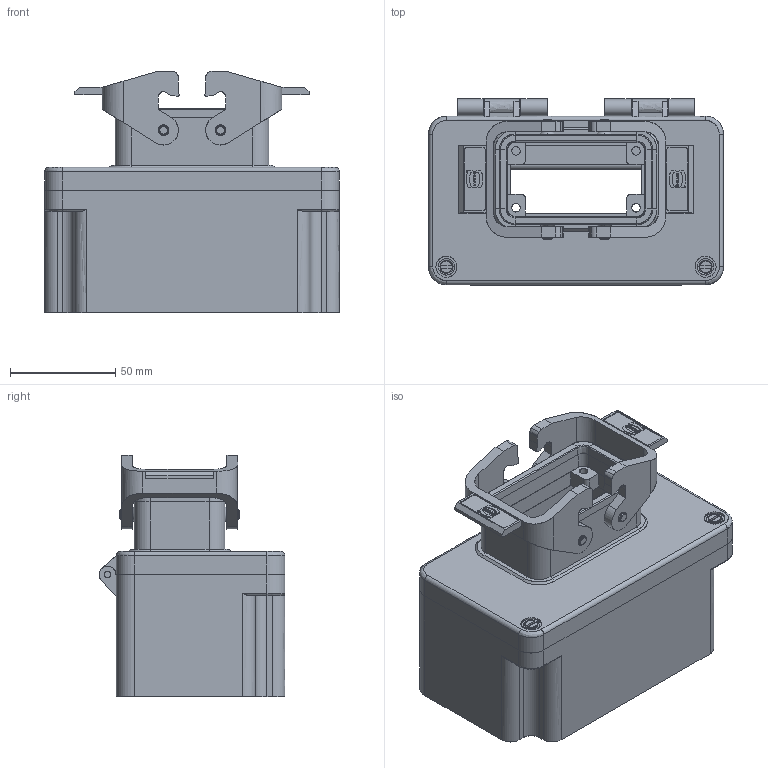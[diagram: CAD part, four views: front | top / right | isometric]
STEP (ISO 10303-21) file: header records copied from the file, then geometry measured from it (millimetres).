
FILE_DESCRIPTION( ( 'STEP AP214' ), '1' );
FILE_NAME( 'C:/Dokumente und Einstellungen/Administrator/Desktop/47 Kabelboxen/G1/2/gr_1_10e-a.stp', '2006-09-10T09:40:16', ( ' ' ), ( ' ' ), 'XStep 1.0', 'VISICAD', ' ' );
FILE_SCHEMA( ( 'automotive_design' ) );
Length unit declared in the file: millimetre
Products named in the file (1162): 1; 2; 3; 4; 5; 6; 7; 8; 9; 10; 11; 12; 13; 14; 15; 16; 17; 18; 19; 20; 21; 22; 23; 24; 25; 26; 27; 28; 29; 30; 31; 32; 33; 34; 35; 36; 37; 38; 39; 40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
Bounding box: 140 x 88.2 x 114.6 mm (x, y, z)
Surface area: 129237.4 mm2 (no closed solid volume)
Topology: 0 solids, 1162 shells, 1162 faces, 5956 edges, 5948 vertices
Faces by surface type: plane 630, bspline 246, revolution 202, cylinder 84
Full cylindrical faces by diameter (mm): 0.76 x2, 0.84 x2, 5.1 x4
Entity records: 121582 total; most frequent: CARTESIAN_POINT 50568, DIRECTION 8963, ORIENTED_EDGE 5948, EDGE_CURVE 5948, VERTEX_POINT 5948, LINE 3751, VECTOR 3751, AXIS2_PLACEMENT_3D 2505
